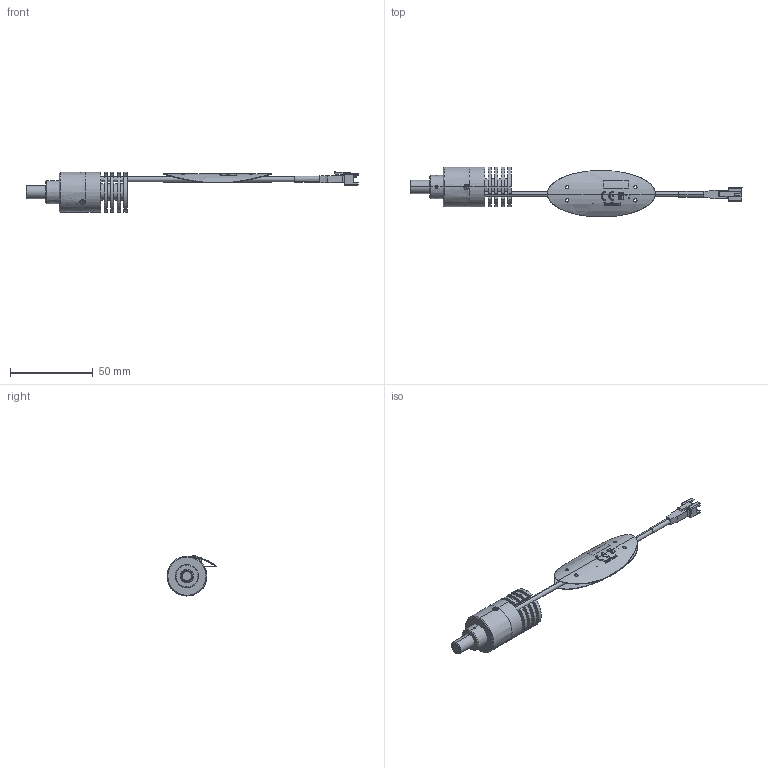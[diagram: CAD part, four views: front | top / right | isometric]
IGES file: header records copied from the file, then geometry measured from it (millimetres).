
Start section: 3D InterOp IGES (v. 2019 1.0.2), Spatial Corp. Copyright (c) 1999-2017.
Global section: file name: VSP-A07-2P_DRAWING_3D.iges; native system: Spatial Corp.; preprocessor: 3D InterOp ACIS/IGES; author: Noname; organization: Noname; date: 20240304.120337; units: millimetre
Bounding box: 200 x 30.1 x 24.17 mm (x, y, z)
Surface area: 18517.7 mm2 (no closed solid volume)
Topology: 0 solids, 0 shells, 446 faces, 2544 edges, 2528 vertices
Faces by surface type: extrusion 223, revolution 211, bspline 12
